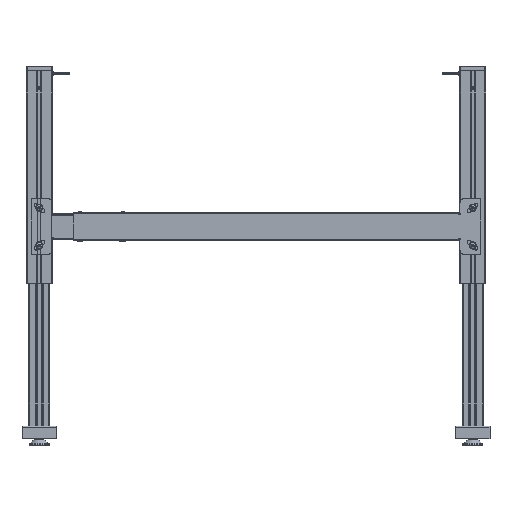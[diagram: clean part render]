
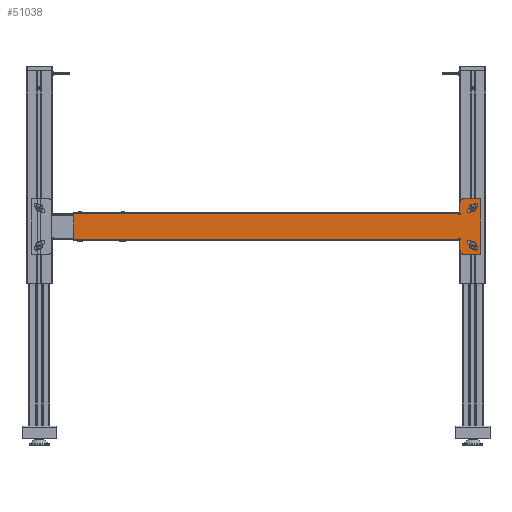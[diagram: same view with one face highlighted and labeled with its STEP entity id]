
A CAD part, left-side view. The second image highlights one B-rep face of the part: STEP entity #51038.
In plain terms, the highlighted planar face has unit normal (-1, 0, 0) as drawn and (0, 0, -1) by its records, which use the part's own axes.
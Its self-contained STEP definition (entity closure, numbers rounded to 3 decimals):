
#3922=CIRCLE('',#66987,4.75);
#3924=CIRCLE('',#66992,4.75);
#3932=CIRCLE('',#67009,4.75);
#3933=CIRCLE('',#67010,4.75);
#3934=CIRCLE('',#67011,10.);
#3935=CIRCLE('',#67012,10.);
#3936=CIRCLE('',#67013,1.75);
#3937=CIRCLE('',#67014,1.75);
#17311=ORIENTED_EDGE('',*,*,#25690,.F.);
#17312=ORIENTED_EDGE('',*,*,#25654,.F.);
#17313=ORIENTED_EDGE('',*,*,#25658,.F.);
#17314=ORIENTED_EDGE('',*,*,#25661,.F.);
#17315=ORIENTED_EDGE('',*,*,#25691,.F.);
#17316=ORIENTED_EDGE('',*,*,#25644,.F.);
#17317=ORIENTED_EDGE('',*,*,#25648,.F.);
#17318=ORIENTED_EDGE('',*,*,#25651,.F.);
#17319=ORIENTED_EDGE('',*,*,#25673,.F.);
#17320=ORIENTED_EDGE('',*,*,#25692,.T.);
#17321=ORIENTED_EDGE('',*,*,#25668,.F.);
#17322=ORIENTED_EDGE('',*,*,#25666,.F.);
#17323=ORIENTED_EDGE('',*,*,#25681,.F.);
#17324=ORIENTED_EDGE('',*,*,#25693,.T.);
#17325=ORIENTED_EDGE('',*,*,#25675,.F.);
#17326=ORIENTED_EDGE('',*,*,#25694,.F.);
#17327=ORIENTED_EDGE('',*,*,#25600,.T.);
#17328=ORIENTED_EDGE('',*,*,#25683,.F.);
#17329=ORIENTED_EDGE('',*,*,#25642,.T.);
#17330=ORIENTED_EDGE('',*,*,#25695,.F.);
#25600=EDGE_CURVE('',#30937,#30936,#35958,.T.);
#25642=EDGE_CURVE('',#30966,#30967,#35979,.T.);
#25644=EDGE_CURVE('',#30968,#30969,#35980,.T.);
#25648=EDGE_CURVE('',#30972,#30968,#3922,.T.);
#25651=EDGE_CURVE('',#30974,#30972,#35985,.T.);
#25654=EDGE_CURVE('',#30976,#30977,#35988,.T.);
#25658=EDGE_CURVE('',#30980,#30976,#3924,.T.);
#25661=EDGE_CURVE('',#30982,#30980,#35993,.T.);
#25666=EDGE_CURVE('',#30986,#30987,#35998,.T.);
#25668=EDGE_CURVE('',#30987,#30988,#36000,.T.);
#25673=EDGE_CURVE('',#30992,#30993,#36005,.T.);
#25675=EDGE_CURVE('',#30994,#30995,#36007,.T.);
#25681=EDGE_CURVE('',#30999,#30986,#36013,.T.);
#25683=EDGE_CURVE('',#30966,#30936,#36015,.T.);
#25690=EDGE_CURVE('',#30977,#30982,#3932,.T.);
#25691=EDGE_CURVE('',#30969,#30974,#3933,.T.);
#25692=EDGE_CURVE('',#30992,#30988,#3934,.T.);
#25693=EDGE_CURVE('',#30999,#30995,#3935,.T.);
#25694=EDGE_CURVE('',#30937,#30994,#3936,.T.);
#25695=EDGE_CURVE('',#30993,#30967,#3937,.T.);
#30936=VERTEX_POINT('',#96260);
#30937=VERTEX_POINT('',#96262);
#30966=VERTEX_POINT('',#96349);
#30967=VERTEX_POINT('',#96351);
#30968=VERTEX_POINT('',#96360);
#30969=VERTEX_POINT('',#96361);
#30972=VERTEX_POINT('',#96369);
#30974=VERTEX_POINT('',#96375);
#30976=VERTEX_POINT('',#96381);
#30977=VERTEX_POINT('',#96382);
#30980=VERTEX_POINT('',#96390);
#30982=VERTEX_POINT('',#96396);
#30986=VERTEX_POINT('',#96405);
#30987=VERTEX_POINT('',#96407);
#30988=VERTEX_POINT('',#96411);
#30992=VERTEX_POINT('',#96420);
#30993=VERTEX_POINT('',#96422);
#30994=VERTEX_POINT('',#96426);
#30995=VERTEX_POINT('',#96427);
#30999=VERTEX_POINT('',#96437);
#35958=LINE('',#96261,#40797);
#35979=LINE('',#96352,#40818);
#35980=LINE('',#96359,#40819);
#35985=LINE('',#96374,#40824);
#35988=LINE('',#96380,#40827);
#35993=LINE('',#96395,#40832);
#35998=LINE('',#96406,#40837);
#36000=LINE('',#96410,#40839);
#36005=LINE('',#96421,#40844);
#36007=LINE('',#96425,#40846);
#36013=LINE('',#96438,#40852);
#36015=LINE('',#96441,#40854);
#40797=VECTOR('',#80482,1000.);
#40818=VECTOR('',#80565,1000.);
#40819=VECTOR('',#80570,1000.);
#40824=VECTOR('',#80583,1000.);
#40827=VECTOR('',#80588,1000.);
#40832=VECTOR('',#80601,1000.);
#40837=VECTOR('',#80608,1000.);
#40839=VECTOR('',#80612,1000.);
#40844=VECTOR('',#80619,1000.);
#40846=VECTOR('',#80623,1000.);
#40852=VECTOR('',#80631,1000.);
#40854=VECTOR('',#80635,1000.);
#43708=EDGE_LOOP('',(#17311,#17312,#17313,#17314));
#43709=EDGE_LOOP('',(#17315,#17316,#17317,#17318));
#43710=EDGE_LOOP('',(#17319,#17320,#17321,#17322,#17323,#17324,#17325,#17326,
#17327,#17328,#17329,#17330));
#46718=FACE_BOUND('',#43708,.T.);
#46719=FACE_BOUND('',#43709,.T.);
#46720=FACE_BOUND('',#43710,.T.);
#48578=PLANE('',#67008);
#51038=ADVANCED_FACE('',(#46718,#46719,#46720),#48578,.T.);
#66987=AXIS2_PLACEMENT_3D('',#96368,#80576,#80577);
#66992=AXIS2_PLACEMENT_3D('',#96389,#80594,#80595);
#67008=AXIS2_PLACEMENT_3D('',#96449,#80650,#80651);
#67009=AXIS2_PLACEMENT_3D('',#96450,#80652,#80653);
#67010=AXIS2_PLACEMENT_3D('',#96451,#80654,#80655);
#67011=AXIS2_PLACEMENT_3D('',#96452,#80656,#80657);
#67012=AXIS2_PLACEMENT_3D('',#96453,#80658,#80659);
#67013=AXIS2_PLACEMENT_3D('',#96454,#80660,#80661);
#67014=AXIS2_PLACEMENT_3D('',#96455,#80662,#80663);
#80482=DIRECTION('',(1.,0.,0.));
#80565=DIRECTION('',(-1.,0.,0.));
#80570=DIRECTION('',(0.766,0.643,0.));
#80576=DIRECTION('',(0.,0.,-1.));
#80577=DIRECTION('',(-1.,0.,0.));
#80583=DIRECTION('',(-0.766,-0.643,0.));
#80588=DIRECTION('',(0.766,-0.643,0.));
#80594=DIRECTION('',(0.,0.,-1.));
#80595=DIRECTION('',(-1.,0.,0.));
#80601=DIRECTION('',(-0.766,0.643,0.));
#80608=DIRECTION('',(0.,-1.,0.));
#80612=DIRECTION('',(1.,0.,0.));
#80619=DIRECTION('',(0.,1.,0.));
#80623=DIRECTION('',(0.,1.,0.));
#80631=DIRECTION('',(-1.,0.,0.));
#80635=DIRECTION('',(0.,1.,0.));
#80650=DIRECTION('',(0.,0.,-1.));
#80651=DIRECTION('',(-1.,0.,0.));
#80652=DIRECTION('',(0.,0.,-1.));
#80653=DIRECTION('',(-1.,0.,0.));
#80654=DIRECTION('',(0.,0.,-1.));
#80655=DIRECTION('',(-1.,0.,0.));
#80656=DIRECTION('',(0.,0.,-1.));
#80657=DIRECTION('',(-1.,0.,0.));
#80658=DIRECTION('',(0.,0.,-1.));
#80659=DIRECTION('',(-1.,0.,0.));
#80660=DIRECTION('',(0.,0.,-1.));
#80661=DIRECTION('',(-1.,0.,0.));
#80662=DIRECTION('',(0.,0.,-1.));
#80663=DIRECTION('',(1.,0.,0.));
#96260=CARTESIAN_POINT('',(924.,29.9,-2.5));
#96261=CARTESIAN_POINT('',(26.,29.9,-2.5));
#96262=CARTESIAN_POINT('',(26.747,29.9,-2.5));
#96349=CARTESIAN_POINT('',(924.,-29.9,-2.5));
#96351=CARTESIAN_POINT('',(26.754,-29.9,-2.5));
#96352=CARTESIAN_POINT('',(924.,-29.9,-2.5));
#96359=CARTESIAN_POINT('',(16.196,-19.301,-2.5));
#96360=CARTESIAN_POINT('',(-16.053,-46.361,-2.5));
#96361=CARTESIAN_POINT('',(-0.349,-33.184,-2.5));
#96368=CARTESIAN_POINT('',(-13.,-50.,-2.5));
#96369=CARTESIAN_POINT('',(-9.947,-53.639,-2.5));
#96374=CARTESIAN_POINT('',(22.302,-26.579,-2.5));
#96375=CARTESIAN_POINT('',(5.757,-40.462,-2.5));
#96380=CARTESIAN_POINT('',(22.302,26.579,-2.5));
#96381=CARTESIAN_POINT('',(-9.947,53.639,-2.5));
#96382=CARTESIAN_POINT('',(5.757,40.462,-2.5));
#96389=CARTESIAN_POINT('',(-13.,50.,-2.5));
#96390=CARTESIAN_POINT('',(-16.053,46.361,-2.5));
#96395=CARTESIAN_POINT('',(16.196,19.301,-2.5));
#96396=CARTESIAN_POINT('',(-0.349,33.184,-2.5));
#96405=CARTESIAN_POINT('',(-24.,65.,-2.5));
#96406=CARTESIAN_POINT('',(-24.,65.,-2.5));
#96407=CARTESIAN_POINT('',(-24.,-65.,-2.5));
#96410=CARTESIAN_POINT('',(-24.,-65.,-2.5));
#96411=CARTESIAN_POINT('',(14.,-65.,-2.5));
#96420=CARTESIAN_POINT('',(24.,-55.,-2.5));
#96421=CARTESIAN_POINT('',(24.,65.,-2.5));
#96422=CARTESIAN_POINT('',(24.,-31.436,-2.5));
#96425=CARTESIAN_POINT('',(24.,65.,-2.5));
#96426=CARTESIAN_POINT('',(24.,31.436,-2.5));
#96427=CARTESIAN_POINT('',(24.,55.,-2.5));
#96437=CARTESIAN_POINT('',(14.,65.,-2.5));
#96438=CARTESIAN_POINT('',(-24.,65.,-2.5));
#96441=CARTESIAN_POINT('',(924.,30.,-2.5));
#96449=CARTESIAN_POINT('',(0.,0.,-2.5));
#96450=CARTESIAN_POINT('',(2.704,36.823,-2.5));
#96451=CARTESIAN_POINT('',(2.704,-36.823,-2.5));
#96452=CARTESIAN_POINT('',(14.,-55.,-2.5));
#96453=CARTESIAN_POINT('',(14.,55.,-2.5));
#96454=CARTESIAN_POINT('',(25.,30.,-2.5));
#96455=CARTESIAN_POINT('',(25.,-30.,-2.5));
